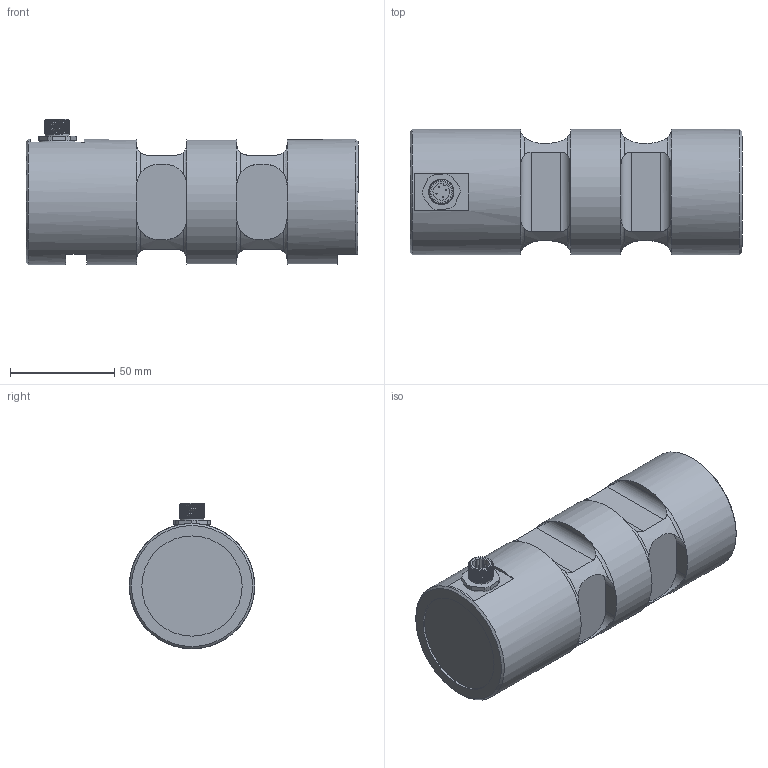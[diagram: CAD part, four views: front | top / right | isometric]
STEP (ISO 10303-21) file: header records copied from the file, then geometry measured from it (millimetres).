
FILE_DESCRIPTION(/* description */ ('Alibre Inc.'),/* implementation_level */ '2;1');
FILE_NAME(/* name */ 'export0',/* time_stamp */ '2015-05-26T12:12:02+02:00',/* author */ (''),/* organization */ (''),/* preprocessor_version */ 'ST-DEVELOPER v14',/* originating_system */ 'Alibre',/* authorisation */ '');
FILE_SCHEMA (('CONFIG_CONTROL_DESIGN'));
Length unit declared in the file: centimetre
Products named in the file (6): ID_1; ID_2; ID_3; ID_4
Bounding box: 159 x 60 x 69.62 mm (x, y, z)
Volume: 407980.9 mm3; surface area: 41675.6 mm2
Topology: 8 solids, 8 shells, 200 faces, 459 edges, 281 vertices
Faces by surface type: plane 84, cylinder 70, bspline 23, torus 17, cone 6
Full cylindrical faces by diameter (mm): 0.5 x8, 8 x2, 10 x3, 11.5 x1, 13 x1, 14.376 x1, 48 x1, 60 x3
Entity records: 18709 total; most frequent: CARTESIAN_POINT 14516, ORIENTED_EDGE 848, DIRECTION 512, EDGE_CURVE 419, VERTEX_POINT 269, FACE_BOUND 241, EDGE_LOOP 240, AXIS2_PLACEMENT_3D 225
